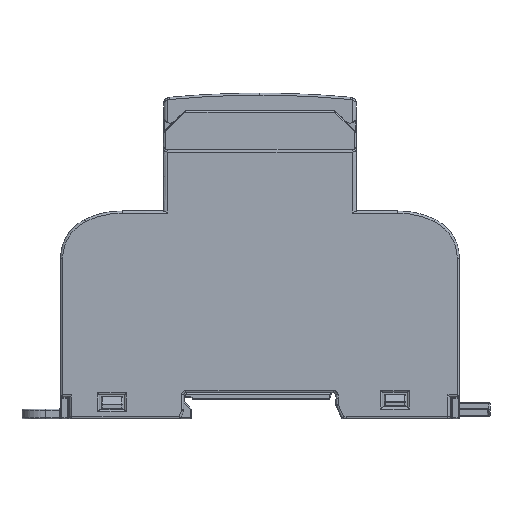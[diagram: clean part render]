
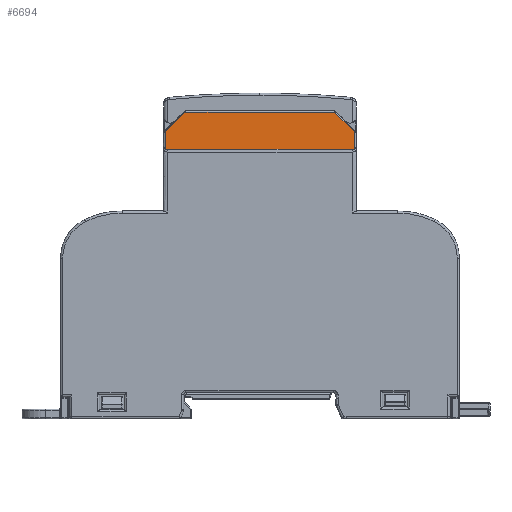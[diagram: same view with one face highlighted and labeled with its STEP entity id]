
A CAD part, left-side view. The second image highlights one B-rep face of the part: STEP entity #6694.
In plain terms, the highlighted planar face has unit normal (-1, 0, 0.009).
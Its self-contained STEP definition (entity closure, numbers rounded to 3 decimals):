
#1374 = EDGE_CURVE ( 'NONE', #125970, #92918, #100962, .T. ) ;
#5358 = DIRECTION ( 'NONE',  ( -0.006, 0.707, -0.707 ) ) ;
#6694 = ADVANCED_FACE ( 'NONE', ( #77981 ), #117792, .T. ) ;
#6995 = CARTESIAN_POINT ( 'NONE',  ( -0.034, 21.965, 62.95 ) ) ;
#12429 = VERTEX_POINT ( 'NONE', #52280 ) ;
#13760 = LINE ( 'NONE', #43260, #66163 ) ;
#14187 = ORIENTED_EDGE ( 'NONE', *, *, #94682, .F. ) ;
#14516 = DIRECTION ( 'NONE',  ( -0.009, 0.009, -1. ) ) ;
#15158 = DIRECTION ( 'NONE',  ( 0., 1., 0. ) ) ;
#15669 = CARTESIAN_POINT ( 'NONE',  ( -0.033, -22.032, 63.112 ) ) ;
#16662 = CARTESIAN_POINT ( 'NONE',  ( -0.032, 22.032, 63.2 ) ) ;
#18112 = VERTEX_POINT ( 'NONE', #63792 ) ;
#23512 =( BOUNDED_CURVE ( )  B_SPLINE_CURVE ( 3, ( #16662, #83457, #122659, #6995 ),
 .UNSPECIFIED., .F., .F. ) 
 B_SPLINE_CURVE_WITH_KNOTS ( ( 4, 4 ),
 ( 4.712, 5.235 ),
 .UNSPECIFIED. ) 
 CURVE ( )  GEOMETRIC_REPRESENTATION_ITEM ( )  RATIONAL_B_SPLINE_CURVE ( ( 1., 0.972, 0.967, 0.984 ) ) 
 REPRESENTATION_ITEM ( '' )  );
#24655 = CARTESIAN_POINT ( 'NONE',  ( -0.034, -21.965, 62.95 ) ) ;
#29141 = CARTESIAN_POINT ( 'NONE',  ( 0., 0., 66.9 ) ) ;
#30441 = EDGE_CURVE ( 'NONE', #57952, #18112, #83204, .T. ) ;
#30608 = VERTEX_POINT ( 'NONE', #103763 ) ;
#33469 = AXIS2_PLACEMENT_3D ( 'NONE', #29141, #86338, #40053 ) ;
#34309 = ORIENTED_EDGE ( 'NONE', *, *, #103963, .T. ) ;
#35979 = EDGE_CURVE ( 'NONE', #40332, #30608, #91478, .T. ) ;
#40053 = DIRECTION ( 'NONE',  ( 0., 1., 0. ) ) ;
#40332 = VERTEX_POINT ( 'NONE', #84043 ) ;
#43260 = CARTESIAN_POINT ( 'NONE',  ( 0.097, 11.06, 77.959 ) ) ;
#43387 = VECTOR ( 'NONE', #79949, 1000. ) ;
#48920 = VECTOR ( 'NONE', #15158, 1000. ) ;
#52280 = CARTESIAN_POINT ( 'NONE',  ( -0.034, 21.965, 62.95 ) ) ;
#54325 = LINE ( 'NONE', #64611, #48920 ) ;
#55230 = CARTESIAN_POINT ( 'NONE',  ( -0.032, -22.032, 63.2 ) ) ;
#57171 = ORIENTED_EDGE ( 'NONE', *, *, #1374, .T. ) ;
#57952 = VERTEX_POINT ( 'NONE', #106493 ) ;
#61576 = ORIENTED_EDGE ( 'NONE', *, *, #64275, .T. ) ;
#63792 = CARTESIAN_POINT ( 'NONE',  ( -0.032, 22.032, 63.2 ) ) ;
#64275 = EDGE_CURVE ( 'NONE', #30608, #123891, #74463, .T. ) ;
#64611 = CARTESIAN_POINT ( 'NONE',  ( -0.034, 0., 62.95 ) ) ;
#66163 = VECTOR ( 'NONE', #5358, 1000. ) ;
#71911 = CARTESIAN_POINT ( 'NONE',  ( 0.002, -21.998, 67.092 ) ) ;
#72701 = ORIENTED_EDGE ( 'NONE', *, *, #35979, .T. ) ;
#73571 = CARTESIAN_POINT ( 'NONE',  ( 0.04, 17.515, 71.504 ) ) ;
#74463 = LINE ( 'NONE', #112354, #90118 ) ;
#77447 = VECTOR ( 'NONE', #14516, 1000. ) ;
#77981 = FACE_OUTER_BOUND ( 'NONE', #89552, .T. ) ;
#79949 = DIRECTION ( 'NONE',  ( 0.006, 0.707, 0.707 ) ) ;
#81521 = DIRECTION ( 'NONE',  ( 0.009, 0.009, 1. ) ) ;
#83204 = LINE ( 'NONE', #120502, #77447 ) ;
#83457 = CARTESIAN_POINT ( 'NONE',  ( -0.033, 22.032, 63.112 ) ) ;
#84043 = CARTESIAN_POINT ( 'NONE',  ( 0., -22., 66.95 ) ) ;
#85232 = ORIENTED_EDGE ( 'NONE', *, *, #119491, .T. ) ;
#86338 = DIRECTION ( 'NONE',  ( -1., 0., 0.009 ) ) ;
#87270 = VECTOR ( 'NONE', #81521, 1000. ) ;
#89552 = EDGE_LOOP ( 'NONE', ( #57171, #85232, #72701, #61576, #91125, #92202, #34309, #14187 ) ) ;
#90118 = VECTOR ( 'NONE', #93101, 1000. ) ;
#91125 = ORIENTED_EDGE ( 'NONE', *, *, #99317, .T. ) ;
#91478 = LINE ( 'NONE', #99853, #43387 ) ;
#92202 = ORIENTED_EDGE ( 'NONE', *, *, #30441, .T. ) ;
#92918 = VERTEX_POINT ( 'NONE', #55230 ) ;
#93101 = DIRECTION ( 'NONE',  ( 0., 1., 0. ) ) ;
#94682 = EDGE_CURVE ( 'NONE', #125970, #12429, #54325, .T. ) ;
#99317 = EDGE_CURVE ( 'NONE', #123891, #57952, #13760, .T. ) ;
#99853 = CARTESIAN_POINT ( 'NONE',  ( 0.039, -17.621, 71.329 ) ) ;
#100962 =( BOUNDED_CURVE ( )  B_SPLINE_CURVE ( 3, ( #24655, #113919, #15669, #114549 ),
 .UNSPECIFIED., .F., .F. ) 
 B_SPLINE_CURVE_WITH_KNOTS ( ( 4, 4 ),
 ( 4.19, 4.712 ),
 .UNSPECIFIED. ) 
 CURVE ( )  GEOMETRIC_REPRESENTATION_ITEM ( )  RATIONAL_B_SPLINE_CURVE ( ( 0.984, 0.967, 0.972, 1. ) ) 
 REPRESENTATION_ITEM ( '' )  );
#102064 = LINE ( 'NONE', #71911, #87270 ) ;
#103763 = CARTESIAN_POINT ( 'NONE',  ( 0.04, -17.445, 71.504 ) ) ;
#103963 = EDGE_CURVE ( 'NONE', #18112, #12429, #23512, .T. ) ;
#106493 = CARTESIAN_POINT ( 'NONE',  ( 0.001, 21.999, 67.021 ) ) ;
#110404 = CARTESIAN_POINT ( 'NONE',  ( -0.034, -21.965, 62.95 ) ) ;
#112354 = CARTESIAN_POINT ( 'NONE',  ( 0.04, 0., 71.504 ) ) ;
#113919 = CARTESIAN_POINT ( 'NONE',  ( -0.034, -22.01, 63.027 ) ) ;
#114549 = CARTESIAN_POINT ( 'NONE',  ( -0.032, -22.032, 63.2 ) ) ;
#117792 = PLANE ( 'NONE',  #33469 ) ;
#119491 = EDGE_CURVE ( 'NONE', #92918, #40332, #102064, .T. ) ;
#120502 = CARTESIAN_POINT ( 'NONE',  ( 0.002, 21.998, 67.092 ) ) ;
#122659 = CARTESIAN_POINT ( 'NONE',  ( -0.034, 22.01, 63.027 ) ) ;
#123891 = VERTEX_POINT ( 'NONE', #73571 ) ;
#125970 = VERTEX_POINT ( 'NONE', #110404 ) ;
